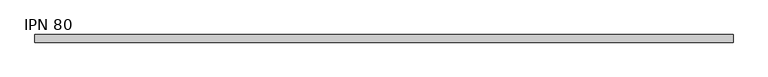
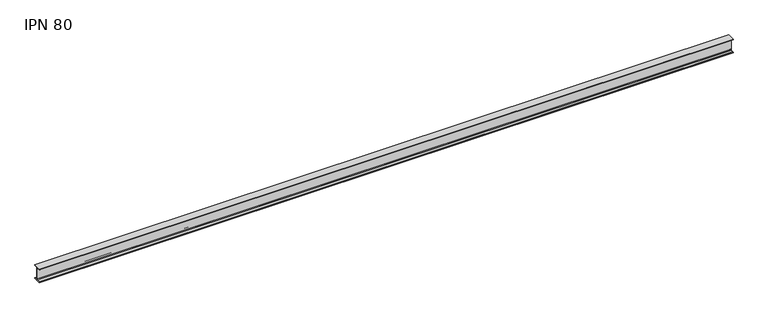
"""IFC4 building model written with IfcOpenShell, lengths in millimetres: beam geometry, IPN - Secciones en I con alas cónicas : IPN 80."""

from ifc_helpers import new_model, si_unit, point, frame, frame_2d, origin, place, context, project, spatial, polyline, circle_curve, trimmed, segment, composite_curve, outline, extrude, source, transform, mapped, element, save


def ipn_80_2578fbdd(model_context):
    return source(origin(), model_context, "Body", "SweptSolid", [
        extrude(outline(composite_curve([segment(polyline([(-21.0, 40.0), (21.0, 40.0), (21.0, 37.5704306)]), True, "CONTINUOUS"), segment(trimmed(circle_curve(frame_2d((18.7, 37.5704306)), 2.3), [point((21.0, 37.5704306))], [point((19.01889, 35.2926446))], False, "CARTESIAN"), True, "CONTINUOUS"), segment(polyline([(19.01889, 35.2926446), (5.3092734, 33.3732983)]), True, "CONTINUOUS"), segment(trimmed(circle_curve(frame_2d((5.85, 29.5109655)), 3.9), [point((5.3092734, 33.3732983))], [point((1.95, 29.5109655))], True, "CARTESIAN"), True, "CONTINUOUS"), segment(polyline([(1.95, 29.5109655), (1.95, -29.5109655)]), True, "CONTINUOUS"), segment(trimmed(circle_curve(frame_2d((5.85, -29.5109655)), 3.9), [point((1.95, -29.5109655))], [point((5.3092734, -33.3732983))], True, "CARTESIAN"), True, "CONTINUOUS"), segment(polyline([(5.3092734, -33.3732983), (19.01889, -35.2926446)]), True, "CONTINUOUS"), segment(trimmed(circle_curve(frame_2d((18.7, -37.5704306)), 2.3), [point((19.01889, -35.2926446))], [point((21.0, -37.5704306))], False, "CARTESIAN"), True, "CONTINUOUS"), segment(polyline([(21.0, -37.5704306), (21.0, -40.0), (-21.0, -40.0), (-21.0, -37.5704306)]), True, "CONTINUOUS"), segment(trimmed(circle_curve(frame_2d((-18.7, -37.5704306)), 2.3), [point((-21.0, -37.5704306))], [point((-19.01889, -35.2926446))], False, "CARTESIAN"), True, "CONTINUOUS"), segment(polyline([(-19.01889, -35.2926446), (-5.3092734, -33.3732983)]), True, "CONTINUOUS"), segment(trimmed(circle_curve(frame_2d((-5.85, -29.5109655)), 3.9), [point((-5.3092734, -33.3732983))], [point((-1.95, -29.5109655))], True, "CARTESIAN"), True, "CONTINUOUS"), segment(polyline([(-1.95, -29.5109655), (-1.95, 29.5109655)]), True, "CONTINUOUS"), segment(trimmed(circle_curve(frame_2d((-5.85, 29.5109655)), 3.9), [point((-1.95, 29.5109655))], [point((-5.3092734, 33.3732983))], True, "CARTESIAN"), True, "CONTINUOUS"), segment(polyline([(-5.3092734, 33.3732983), (-19.01889, 35.2926446)]), True, "CONTINUOUS"), segment(trimmed(circle_curve(frame_2d((-18.7, 37.5704306)), 2.3), [point((-19.01889, 35.2926446))], [point((-21.0, 37.5704306))], False, "CARTESIAN"), True, "CONTINUOUS"), segment(polyline([(-21.0, 37.5704306), (-21.0, 40.0)]), True, "CONTINUOUS")], self_intersect=False)), frame((-1953.85, 0.0, 0.0), z_axis=(1.0, 0.0, 0.0), x_axis=(0.0, 1.0, 0.0)), (0.0, 0.0, 1.0), 3858.65),
    ])


if __name__ == "__main__":
    model = new_model("IFC4")
    model_context = context("Model", 3, world=origin())
    ifc_project = project(units=[si_unit("LENGTHUNIT", "METRE", prefix="MILLI")], contexts=[model_context])
    site = spatial("IfcSite", under=ifc_project)
    building = spatial("IfcBuilding", under=site)
    placement = place(None, origin())
    ipn_80_shape = ipn_80_2578fbdd(model_context)
    element("IfcBeam", 1, ObjectType="IPN - Secciones en I con alas cónicas : IPN 80", at=placement, inside=building, context=model_context, shape_type="MappedRepresentation", body=[
        mapped(ipn_80_shape, transform((0.0, 0.0, 0.0), x_axis=(1.0, 0.0, 0.0), y_axis=(0.0, 1.0, 0.0), z_axis=(0.0, 0.0, 1.0))),
    ])
    save(model, "model.ifc")
